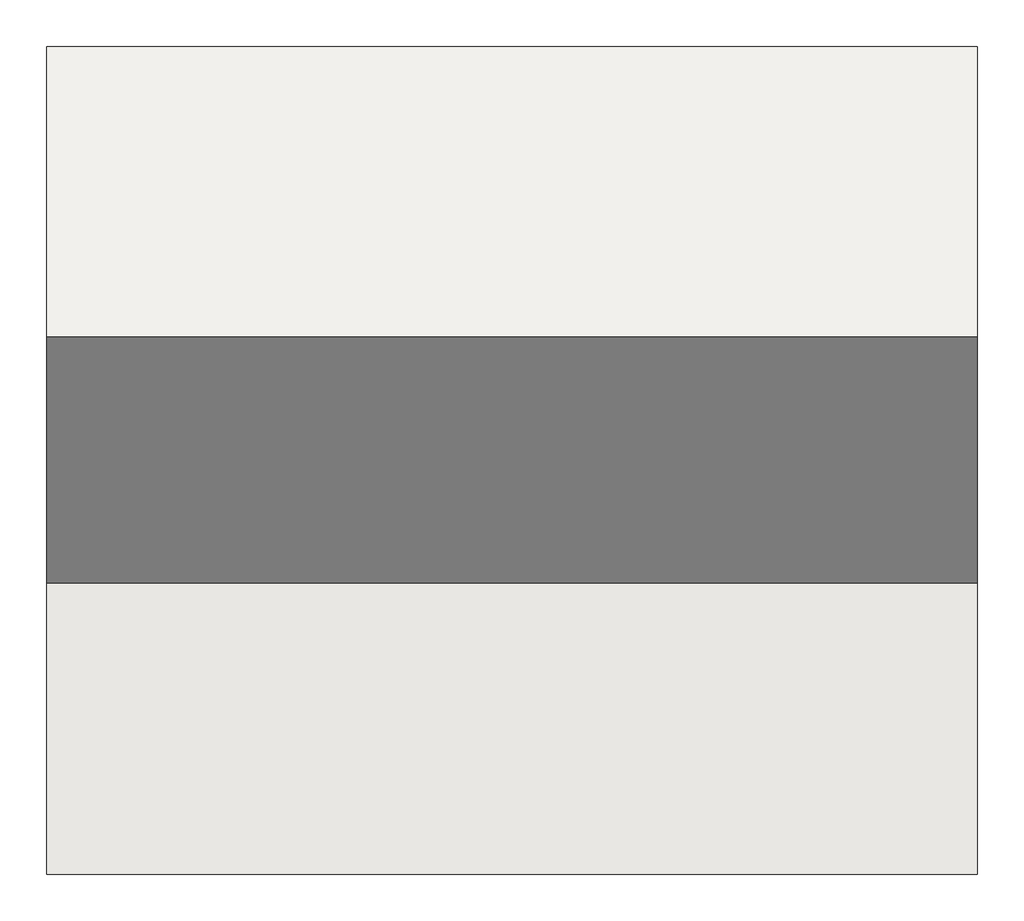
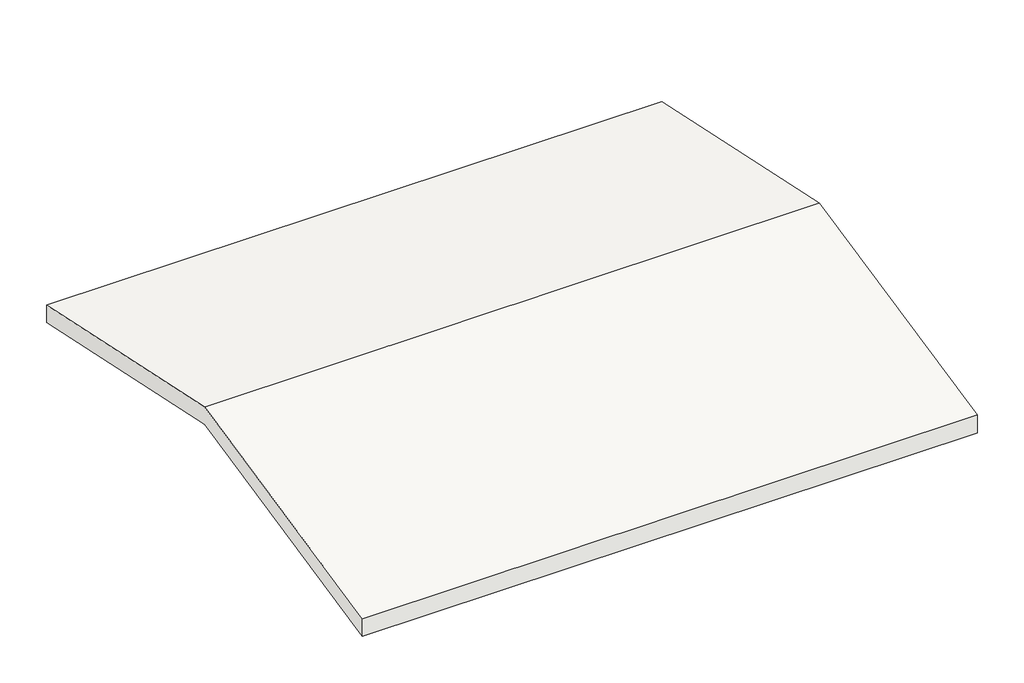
# One storey: 1 roof.
"""IFC4 building model written with IfcOpenShell, lengths in millimetres."""

import ifcopenshell
import ifcopenshell.guid

model = None  # the IFC model being written
_history = None  # IfcOwnerHistory: only IFC2X3 demands one
_inside = {}  # id of a spatial element -> (the spatial element, [elements in it])
_under = {}  # id of a project, library or spatial element -> (it, [spatial elements below it])
_declared = {}  # id of a project -> (the project, [libraries it declares])
_typed = {}  # id of a type object -> (the type object, [elements of that type])
_made_of = {}  # id of a material, layer set ... -> (it, [elements and type objects made of it])


def new_model(schema):
    """Start an empty IFC model of exactly this schema.

    Asked for "IFC4X3", IfcOpenShell would pick the latest addendum, in which some entities
    have other attributes; the version numbers below select the first issue.
    IFC2X3 requires an IfcOwnerHistory on every rooted entity: one is made here for all.
    """
    global model, _history
    if schema == "IFC4X3":
        model = ifcopenshell.file(schema_version=(4, 3, 0, 0))
    else:
        model = ifcopenshell.file(schema=schema)
    _inside.clear()
    _under.clear()
    _declared.clear()
    _typed.clear()
    _made_of.clear()
    _history = None
    if model.schema == "IFC2X3":
        org = make("IfcOrganization", Name="unknown")
        user = make(
            "IfcPersonAndOrganization",
            ThePerson=make("IfcPerson", FamilyName="unknown"),
            TheOrganization=org,
        )
        app = make(
            "IfcApplication",
            ApplicationDeveloper=org,
            Version="unknown",
            ApplicationFullName="unknown",
            ApplicationIdentifier="unknown",
        )
        _history = make(
            "IfcOwnerHistory",
            OwningUser=user,
            OwningApplication=app,
            ChangeAction="ADDED",
            CreationDate=0,
        )
    return model


def make(cls, **values):
    """One entity of the class cls with the attributes given. An attribute that is None is left unset."""
    return model.create_entity(
        cls, **{name: value for name, value in values.items() if value is not None}
    )


def rooted(cls, **values):
    """An entity with a GlobalId (a new one), such as an element, a storey or a relation."""
    return make(cls, GlobalId=ifcopenshell.guid.new(), OwnerHistory=_history, **values)


def si_unit(unit_type, name, prefix=None):
    """IfcSIUnit, for example si_unit("LENGTHUNIT", "METRE", prefix="MILLI")."""
    return make("IfcSIUnit", UnitType=unit_type, Prefix=prefix, Name=name)


def assignment(units):
    """IfcUnitAssignment: the units of a project."""
    return None if units is None else make("IfcUnitAssignment", Units=units)


def point(xyz):
    """IfcCartesianPoint."""
    return None if xyz is None else make("IfcCartesianPoint", Coordinates=xyz)


def direction(xyz):
    """IfcDirection."""
    return None if xyz is None else make("IfcDirection", DirectionRatios=xyz)


def frame(location, z_axis=None, x_axis=None):
    """IfcAxis2Placement3D, a coordinate frame: its origin and axes. An axis left out is left unset."""
    return make(
        "IfcAxis2Placement3D",
        Location=point(location),
        Axis=direction(z_axis),
        RefDirection=direction(x_axis),
    )


def origin():
    """The frame at (0, 0, 0) with its axes left unset."""
    return frame((0.0, 0.0, 0.0))


def place(relative_to, where):
    """IfcLocalPlacement: puts the frame where relative to a parent placement (None: the world)."""
    return make(
        "IfcLocalPlacement", PlacementRelTo=relative_to, RelativePlacement=where
    )


def context(
    kind, dimensions, precision=None, world=None, true_north=None, identifier=None
):
    """IfcGeometricRepresentationContext, for example the 3D "Model" context."""
    return make(
        "IfcGeometricRepresentationContext",
        ContextIdentifier=identifier,
        ContextType=kind,
        CoordinateSpaceDimension=dimensions,
        Precision=precision,
        WorldCoordinateSystem=world,
        TrueNorth=true_north,
    )


def project(units=None, contexts=None):
    """IfcProject with its units and contexts."""
    return rooted(
        "IfcProject",
        Name="project",
        RepresentationContexts=contexts,
        UnitsInContext=assignment(units),
    )


def spatial(cls, under=None, at=None, **own):
    """A site, building, storey or space (cls), placed at a placement, below another one or the project."""
    s = rooted(cls, ObjectPlacement=at, **own)
    if under is not None:
        _under.setdefault(under.id(), (under, []))[1].append(s)
    return s


def polyline(points):
    """IfcPolyline through the points."""
    return make("IfcPolyline", Points=[point(p) for p in points])


def outline(outer, holes=None, kind="AREA"):
    """IfcArbitraryClosedProfileDef: a profile drawn as a closed curve; with holes, ...WithVoids."""
    if holes is None:
        return make("IfcArbitraryClosedProfileDef", ProfileType=kind, OuterCurve=outer)
    return make(
        "IfcArbitraryProfileDefWithVoids",
        ProfileType=kind,
        OuterCurve=outer,
        InnerCurves=holes,
    )


def extrude(swept, where, along, depth):
    """IfcExtrudedAreaSolid: the profile swept, set in the frame where, extruded along a direction by depth."""
    return make(
        "IfcExtrudedAreaSolid",
        SweptArea=swept,
        Position=where,
        ExtrudedDirection=direction(along),
        Depth=depth,
    )


def shape(context_of_items, identifier, shape_type, items):
    """IfcShapeRepresentation: the items that make up one representation, for example the "Body"."""
    return make(
        "IfcShapeRepresentation",
        ContextOfItems=context_of_items,
        RepresentationIdentifier=identifier,
        RepresentationType=shape_type,
        Items=items,
    )


def made_of(thing, what):
    """Note that an element or type object is made of a material, layer set ...; save() writes the relation."""
    if what is not None:
        _made_of.setdefault(what.id(), (what, []))[1].append(thing)
    return thing


def element(
    cls,
    number,
    at=None,
    inside=None,
    cuts=None,
    type_object=None,
    material=None,
    context=None,
    identifier="Body",
    shape_type=None,
    held_by="IfcProductDefinitionShape",
    body=None,
    shapes=None,
    **own,
):
    """One element of the class cls, such as IfcWall. Its Tag is "e" and its number.

    at: its placement. inside: the storey or other place that contains it. cuts: it is an
    opening in that element (IfcRelVoidsElement). A single representation is given by context,
    identifier, shape_type and body (its items); several are given by shapes. held_by: the class
    of the entity that holds the representations. save() writes the other relations.
    """
    e = rooted(cls, Tag="e%d" % number, ObjectPlacement=at, **own)
    if body is not None:
        shapes = [shape(context, identifier, shape_type, body)]
    if shapes is not None:
        e.Representation = make(held_by, Representations=shapes)
    if inside is not None:
        _inside.setdefault(inside.id(), (inside, []))[1].append(e)
    if cuts is not None:
        rooted(
            "IfcRelVoidsElement", RelatingBuildingElement=cuts, RelatedOpeningElement=e
        )
    if type_object is not None:
        _typed.setdefault(type_object.id(), (type_object, []))[1].append(e)
    return made_of(e, material)


def aggregate(whole, parts):
    """IfcRelAggregates: a whole, such as a stair, and the parts it consists of."""
    return rooted("IfcRelAggregates", RelatingObject=whole, RelatedObjects=parts)


def save(model, path):
    """Write the relations noted so far, then the file.

    IfcRelAggregates (storeys below a building ...), IfcRelContainedInSpatialStructure (elements
    in a storey), IfcRelDefinesByType, IfcRelAssociatesMaterial and IfcRelDeclares: one each for
    every whole, place, type object, material and project.
    """
    for whole, parts in _under.values():
        aggregate(whole, parts)
    for where, things in _inside.values():
        rooted(
            "IfcRelContainedInSpatialStructure",
            RelatedElements=things,
            RelatingStructure=where,
        )
    for kind, things in _typed.values():
        rooted("IfcRelDefinesByType", RelatedObjects=things, RelatingType=kind)
    for what, things in _made_of.values():
        rooted("IfcRelAssociatesMaterial", RelatedObjects=things, RelatingMaterial=what)
    for by, libraries in _declared.values():
        rooted("IfcRelDeclares", RelatingContext=by, RelatedDefinitions=libraries)
    model.write(path)


model = new_model("IFC4")

# Units and contexts
model_context = context("Model", 3, world=origin())
ifc_project = project(units=[si_unit("LENGTHUNIT", "METRE", prefix="MILLI")], contexts=[model_context])

# Site, building, storey
site = spatial("IfcSite", under=ifc_project)
building = spatial("IfcBuilding", under=site)
storey = spatial("IfcBuildingStorey", under=building, Name="Podlaží 3", Elevation=8000.0)

# Roof
placement = place(None, origin())
element("IfcRoof", 1, ObjectType="Střecha 400mm", at=placement, inside=storey, context=model_context, shape_type="SweptSolid", body=[
    extrude(outline(polyline([(13852.0937321, 8302.6579571), (19862.0937321, 9580.1228927), (25872.0937321, 8302.6579571), (25872.0937321, 7893.7217192), (19862.0937321, 9171.1866548), (13852.0937321, 7893.7217192), (13852.0937321, 8302.6579571)])), frame((27183.4387685, 0.0, 0.0), z_axis=(1.0, 0.0, 0.0), x_axis=(0.0, 1.0, 0.0)), (0.0, 0.0, 1.0), 13510.0),
])

save(model, "model.ifc")
